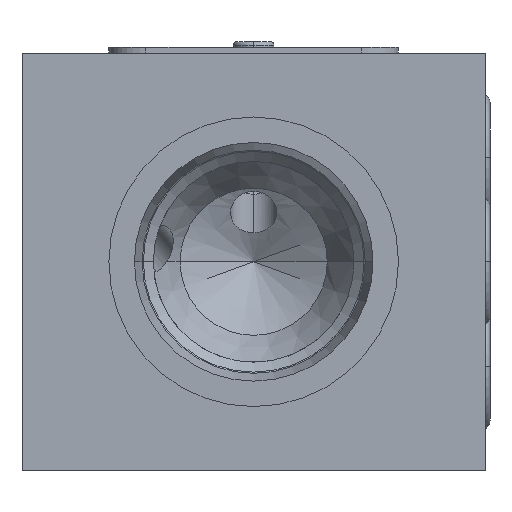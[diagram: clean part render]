
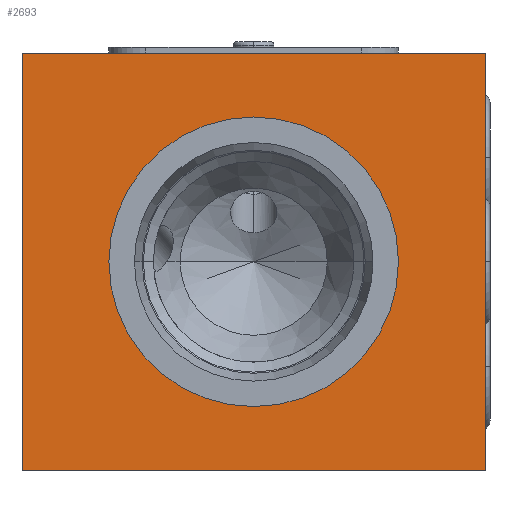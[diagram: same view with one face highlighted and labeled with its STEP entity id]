
A CAD part, left-side view. The second image highlights one B-rep face of the part: STEP entity #2693.
In plain terms, the highlighted planar face has unit normal (-1, 0, 0).
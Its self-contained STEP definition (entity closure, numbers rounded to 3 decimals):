
#55=DIRECTION('',(0.,0.,-1.));
#56=VECTOR('',#55,36.);
#57=CARTESIAN_POINT('',(0.,0.,0.));
#58=LINE('',#57,#56);
#62=DIRECTION('',(0.,1.,0.));
#63=VECTOR('',#62,40.);
#64=CARTESIAN_POINT('',(0.,0.,-36.));
#65=LINE('',#64,#63);
#69=DIRECTION('',(0.,0.,1.));
#70=VECTOR('',#69,36.);
#71=CARTESIAN_POINT('',(0.,40.,-36.));
#72=LINE('',#71,#70);
#76=DIRECTION('',(0.,-1.,0.));
#77=VECTOR('',#76,40.);
#78=CARTESIAN_POINT('',(0.,40.,0.));
#79=LINE('',#78,#77);
#83=CARTESIAN_POINT('',(0.,20.,-18.));
#84=DIRECTION('',(1.,0.,0.));
#85=DIRECTION('',(0.,-1.,0.));
#86=AXIS2_PLACEMENT_3D('',#83,#84,#85);
#91=CARTESIAN_POINT('',(0.,20.,-18.));
#92=DIRECTION('',(1.,0.,0.));
#93=DIRECTION('',(0.,1.,0.));
#94=AXIS2_PLACEMENT_3D('',#91,#92,#93);
#2416=CARTESIAN_POINT('',(0.,0.,0.));
#2417=CARTESIAN_POINT('',(0.,0.,-36.));
#2418=VERTEX_POINT('',#2416);
#2419=VERTEX_POINT('',#2417);
#2420=CARTESIAN_POINT('',(0.,40.,-36.));
#2421=VERTEX_POINT('',#2420);
#2422=CARTESIAN_POINT('',(0.,40.,0.));
#2423=VERTEX_POINT('',#2422);
#2534=CARTESIAN_POINT('',(0.,7.5,-18.));
#2535=VERTEX_POINT('',#2534);
#2536=CARTESIAN_POINT('',(0.,32.5,-18.));
#2537=VERTEX_POINT('',#2536);
#2672=CARTESIAN_POINT('',(0.,0.,0.));
#2673=DIRECTION('',(1.,0.,0.));
#2674=DIRECTION('',(0.,0.,-1.));
#2675=AXIS2_PLACEMENT_3D('',#2672,#2673,#2674);
#2676=PLANE('',#2675);
#2678=ORIENTED_EDGE('',*,*,#2677,.T.);
#2680=ORIENTED_EDGE('',*,*,#2679,.T.);
#2682=ORIENTED_EDGE('',*,*,#2681,.T.);
#2684=ORIENTED_EDGE('',*,*,#2683,.T.);
#2685=EDGE_LOOP('',(#2678,#2680,#2682,#2684));
#2686=FACE_OUTER_BOUND('',#2685,.F.);
#2688=ORIENTED_EDGE('',*,*,#2687,.F.);
#2690=ORIENTED_EDGE('',*,*,#2689,.F.);
#2691=EDGE_LOOP('',(#2688,#2690));
#2692=FACE_BOUND('',#2691,.F.);
#87=CIRCLE('',#86,12.5);
#95=CIRCLE('',#94,12.5);
#2677=EDGE_CURVE('',#2418,#2419,#58,.T.);
#2679=EDGE_CURVE('',#2419,#2421,#65,.T.);
#2681=EDGE_CURVE('',#2421,#2423,#72,.T.);
#2683=EDGE_CURVE('',#2423,#2418,#79,.T.);
#2687=EDGE_CURVE('',#2535,#2537,#87,.T.);
#2689=EDGE_CURVE('',#2537,#2535,#95,.T.);
#2693=ADVANCED_FACE('',(#2686,#2692),#2676,.F.);
